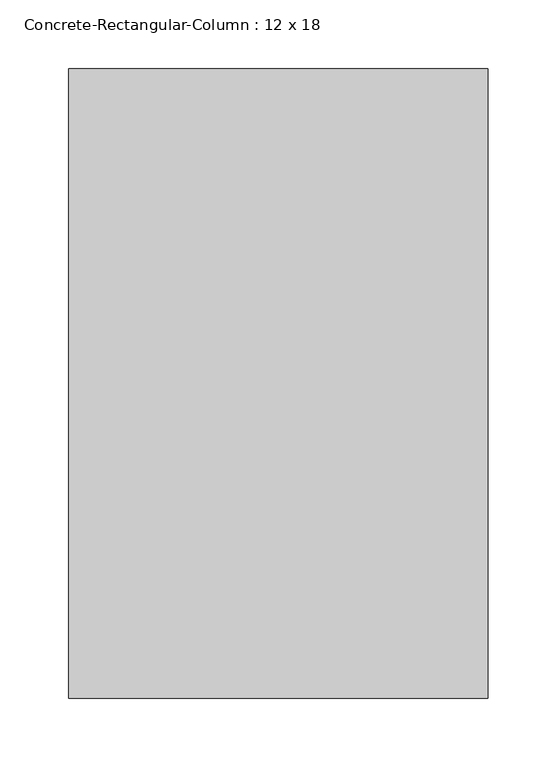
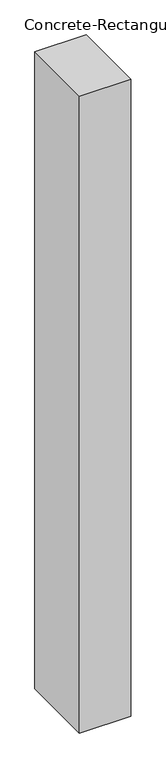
"""IFC4 building model written with IfcOpenShell, lengths in millimetres: column geometry, Concrete-Rectangular-Column : 12 x 18."""

from ifc_helpers import new_model, si_unit, origin, origin_with_axes, place, context, project, spatial, polyline, outline, extrude, source, transform, mapped, element, save


def concrete_rectangular_column_12_x_18_4e544043(model_context):
    return source(origin(), model_context, "Body", "SweptSolid", [
        extrude(outline(polyline([(152.4, 228.6), (152.4, -228.6), (-152.4, -228.6), (-152.4, 228.6), (152.4, 228.6)])), origin_with_axes(), (0.0, 0.0, 1.0), 4000.0),
    ])


if __name__ == "__main__":
    model = new_model("IFC4")
    model_context = context("Model", 3, world=origin())
    ifc_project = project(units=[si_unit("LENGTHUNIT", "METRE", prefix="MILLI")], contexts=[model_context])
    site = spatial("IfcSite", under=ifc_project)
    building = spatial("IfcBuilding", under=site)
    placement = place(None, origin())
    concrete_rectangular_column_12_x_18_shape = concrete_rectangular_column_12_x_18_4e544043(model_context)
    element("IfcColumn", 1, ObjectType="Concrete-Rectangular-Column : 12 x 18", at=placement, inside=building, context=model_context, shape_type="MappedRepresentation", body=[
        mapped(concrete_rectangular_column_12_x_18_shape, transform((0.0, 0.0, 0.0), x_axis=(1.0, 0.0, 0.0), y_axis=(0.0, 1.0, 0.0), z_axis=(0.0, 0.0, 1.0))),
    ])
    save(model, "model.ifc")
